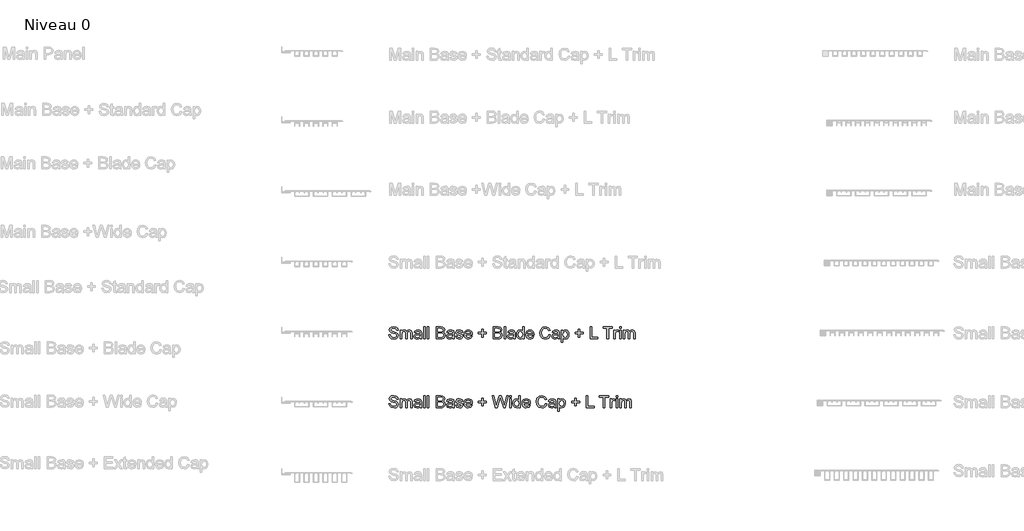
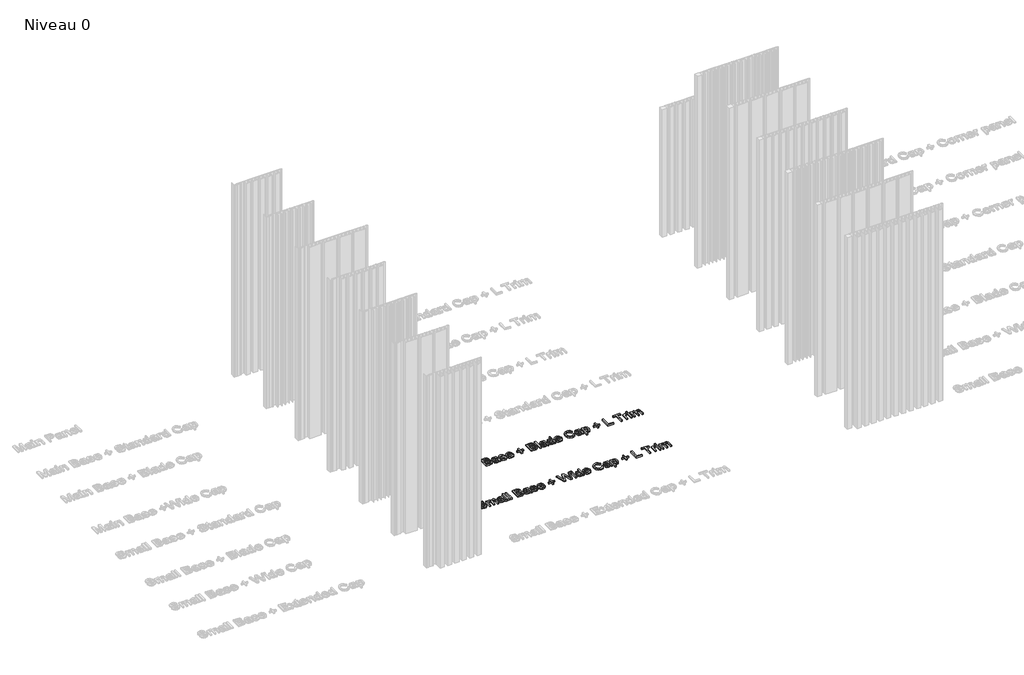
# One storey, part 9 of 25: 2 proxies.
"""IFC4 building model written with IfcOpenShell, lengths in millimetres."""

from ifc_helpers import new_model, si_unit, origin, origin_with_axes, place, context, project, spatial, polyline, outline, extrude, element, save

model = new_model("IFC4")

# Units and contexts
model_context = context("Model", 3, world=origin())
ifc_project = project(units=[si_unit("LENGTHUNIT", "METRE", prefix="MILLI")], contexts=[model_context])

# Site, building, storey
site = spatial("IfcSite", under=ifc_project)
building = spatial("IfcBuilding", under=site)
storey = spatial("IfcBuildingStorey", under=building, Name="Niveau 0", Elevation=0.0)

# Proxies
placement = place(None, origin())
element("IfcBuildingElementProxy", 1, Name="70mm Arial", ObjectType="70mm Arial", at=placement, inside=storey, context=model_context, shape_type="SweptSolid", body=[
    extrude(outline(polyline([(582.8802856, 2910.8444664), (591.6702128, 2910.8444664), (594.5029041, 2902.0459554), (601.4215382, 2896.4835796), (611.9625836, 2894.363353), (621.1473708, 2895.9685448), (627.0788548, 2900.3806762), (629.0274031, 2906.2778246), (627.5681379, 2911.7629451), (621.5937343, 2915.7544648), (608.7951196, 2919.1107748), (595.0179389, 2923.445651), (587.5413505, 2929.9865929), (585.0777674, 2938.7250166), (588.1250566, 2948.673772), (597.0265746, 2955.695413), (610.0569549, 2958.0903248), (623.9628943, 2955.5838221), (633.2335206, 2948.2188246), (636.7185893, 2937.2142478), (627.9286622, 2937.2142478), (622.9499925, 2946.2445245), (610.4003114, 2949.3003976), (597.8162946, 2946.2788602), (593.8676945, 2938.982534), (596.6660503, 2932.8879556), (611.0183532, 2927.9779572), (626.5724039, 2923.5658258), (635.0790619, 2916.4411778), (637.8173302, 2906.5010063), (634.6670341, 2895.9857126), (625.6024217, 2888.3116942), (612.3059401, 2885.5734259), (596.6059629, 2888.526292), (586.6743753, 2897.4192261), (582.8802856, 2910.8444664)])), origin_with_axes(), (0.0, 0.0, 1.0), 10.0),
    extrude(outline(polyline([(649.9034801, 2886.6721668), (649.9034801, 2938.3129887), (658.6934072, 2938.3129887), (658.6934072, 2929.8149146), (664.7364821, 2936.7764683), (673.3375631, 2939.4117296), (682.1446581, 2936.7249648), (686.9859852, 2929.1968729), (693.8445318, 2936.8580154), (702.5057003, 2939.4117296), (713.9995601, 2935.1626926), (718.0254154, 2922.0722249), (718.0254154, 2886.6721668), (709.2354882, 2886.6721668), (709.2354882, 2918.2953031), (708.4200165, 2925.6345489), (705.4671503, 2929.2483764), (700.4455611, 2930.6218025), (691.8015605, 2927.1023981), (688.3594113, 2915.8231361), (688.3594113, 2886.6721668), (679.5694841, 2886.6721668), (679.5694841, 2919.2738692), (677.5350967, 2927.7891111), (670.8653961, 2930.6218025), (664.3587899, 2928.7333416), (660.0324977, 2923.2053015), (658.6934072, 2912.7157595), (658.6934072, 2886.6721668), (649.9034801, 2886.6721668)])), origin_with_axes(), (0.0, 0.0, 1.0), 10.0),
    extrude(outline(polyline([(764.1725329, 2893.2646121), (755.648707, 2887.3073764), (746.2321542, 2885.5734259), (733.4678753, 2889.7452077), (729.0128243, 2900.4064279), (730.6952713, 2907.3593976), (735.1159866, 2912.4067386), (741.2706524, 2915.2909335), (748.8759995, 2916.6128561), (764.1210294, 2919.6343936), (764.1725329, 2921.5915258), (761.7518693, 2928.0809642), (752.0348796, 2930.6218025), (743.1419455, 2928.9307716), (738.9014923, 2922.9306162), (730.1115652, 2924.0293571), (733.9142387, 2932.6132703), (741.5710893, 2937.6434435), (753.1679561, 2939.4117296), (763.8205924, 2937.8494574), (769.8379156, 2933.9266091), (772.5332643, 2927.9607894), (772.96246, 2920.2696031), (772.96246, 2909.3336977), (773.4088235, 2894.0629161), (775.1599418, 2886.6721668), (766.3700146, 2886.6721668), (764.1725329, 2893.2646121)]), holes=[polyline([(764.1725329, 2910.8444664), (749.9919082, 2908.1491177), (742.4294807, 2906.7241881), (739.0044993, 2904.4065315), (737.8027514, 2901.0244697), (740.420845, 2896.2689818), (748.1034473, 2894.363353), (756.9963814, 2896.4664118), (762.7304354, 2901.5566723), (764.1210294, 2908.3551316), (764.1725329, 2910.8444664)])]), origin_with_axes(), (0.0, 0.0, 1.0), 10.0),
    extrude(outline(polyline([(785.0486098, 2886.6721668), (785.0486098, 2956.9915839), (793.8385369, 2956.9915839), (793.8385369, 2886.6721668), (785.0486098, 2886.6721668)])), origin_with_axes(), (0.0, 0.0, 1.0), 10.0),
    extrude(outline(polyline([(807.0234276, 2886.6721668), (807.0234276, 2956.9915839), (815.8133548, 2956.9915839), (815.8133548, 2886.6721668), (807.0234276, 2886.6721668)])), origin_with_axes(), (0.0, 0.0, 1.0), 10.0),
    extrude(outline(polyline([(857.5655087, 2886.6721668), (857.5655087, 2956.9915839), (884.3988214, 2956.9915839), (897.5407926, 2954.9228608), (905.3006501, 2948.5621811), (908.1075897, 2939.5662401), (905.7470136, 2931.3514351), (898.6137817, 2925.128098), (907.2749502, 2918.5699883), (910.3050715, 2907.6340829), (908.2363484, 2898.1831944), (903.1117522, 2891.4534064), (895.4634856, 2887.8824985), (884.1928075, 2886.6721668), (857.5655087, 2886.6721668)]), holes=[polyline([(866.3554358, 2895.4620939), (884.3816536, 2895.4620939), (890.9054276, 2895.8054505), (896.4248838, 2897.7196631), (900.0816309, 2901.6253436), (901.5151444, 2907.5482437), (899.8326974, 2914.3810387), (894.3819125, 2918.4583974), (883.5232623, 2919.6343936), (866.3554358, 2919.6343936), (866.3554358, 2895.4620939)]), polyline([(866.3554358, 2928.4243207), (882.4073536, 2928.4243207), (891.7809868, 2929.1797051), (897.4206178, 2932.4330082), (899.3176626, 2938.1584783), (897.5493765, 2943.8925323), (892.4848677, 2947.283178), (881.1884379, 2948.2016568), (866.3554358, 2948.2016568), (866.3554358, 2928.4243207)])]), origin_with_axes(), (0.0, 0.0, 1.0), 10.0),
    extrude(outline(polyline([(954.2547072, 2893.2646121), (945.7308814, 2887.3073764), (936.3143286, 2885.5734259), (923.5500496, 2889.7452077), (919.0949987, 2900.4064279), (920.7774457, 2907.3593976), (925.198161, 2912.4067386), (931.3528267, 2915.2909335), (938.9581739, 2916.6128561), (954.2032037, 2919.6343936), (954.2547072, 2921.5915258), (951.8340437, 2928.0809642), (942.1170539, 2930.6218025), (933.2241198, 2928.9307716), (928.9836667, 2922.9306162), (920.1937396, 2924.0293571), (923.9964131, 2932.6132703), (931.6532637, 2937.6434435), (943.2501305, 2939.4117296), (953.9027668, 2937.8494574), (959.9200899, 2933.9266091), (962.6154387, 2927.9607894), (963.0446343, 2920.2696031), (963.0446343, 2909.3336977), (963.4909978, 2894.0629161), (965.2421161, 2886.6721668), (956.452189, 2886.6721668), (954.2547072, 2893.2646121)]), holes=[polyline([(954.2547072, 2910.8444664), (940.0740826, 2908.1491177), (932.511655, 2906.7241881), (929.0866736, 2904.4065315), (927.8849258, 2901.0244697), (930.5030193, 2896.2689818), (938.1856217, 2894.363353), (947.0785558, 2896.4664118), (952.8126098, 2901.5566723), (954.2032037, 2908.3551316), (954.2547072, 2910.8444664)])]), origin_with_axes(), (0.0, 0.0, 1.0), 10.0),
    extrude(outline(polyline([(971.8345615, 2902.0545393), (980.6244886, 2903.1532802), (984.6932635, 2896.6295061), (994.0153933, 2894.363353), (1002.9769987, 2896.44066), (1005.8955291, 2901.3163227), (1002.9598308, 2905.2649228), (993.9123863, 2907.7714255), (980.6759921, 2912.071966), (974.8990185, 2917.0935552), (972.9333024, 2924.1838676), (974.5127424, 2930.7333933), (978.8218668, 2935.7378148), (984.4099944, 2938.3387405), (991.9724219, 2939.4117296), (1002.6679778, 2937.6863631), (1009.466437, 2933.0167143), (1012.4879745, 2925.128098), (1003.6980474, 2924.0293571), (1000.3932408, 2928.8792681), (992.659135, 2930.6218025), (984.2469, 2928.9565233), (981.7232295, 2925.0765945), (982.7704669, 2922.5185884), (986.0495218, 2920.578624), (993.6205332, 2918.7073309), (1006.5221548, 2914.5698848), (1012.5137262, 2909.8830681), (1014.6854563, 2902.2433854), (1012.1360341, 2893.8311504), (1004.7796204, 2887.7279881), (993.8952185, 2885.5734259), (978.5643495, 2889.7280399), (971.8345615, 2902.0545393)])), origin_with_axes(), (0.0, 0.0, 1.0), 10.0),
    extrude(outline(polyline([(1060.7295668, 2902.0545393), (1069.3478157, 2900.9557984), (1061.2875212, 2889.6078651), (1046.2742569, 2885.5734259), (1035.9606852, 2887.3138143), (1028.0248574, 2892.5349795), (1022.9646406, 2900.897857), (1021.2779016, 2912.0633821), (1022.9818084, 2923.6044534), (1028.0935287, 2932.2355782), (1035.9220576, 2937.6176918), (1045.77639, 2939.4117296), (1055.3238475, 2937.6219837), (1062.9528003, 2932.252746), (1067.9550758, 2923.6387891), (1069.6225009, 2912.1148856), (1069.5709974, 2909.7457255), (1030.0678288, 2909.7457255), (1035.1237537, 2898.3291209), (1046.4459352, 2894.363353), (1055.0641841, 2896.2003105), (1060.7295668, 2902.0545393)]), holes=[polyline([(1030.0678288, 2918.5356527), (1060.8325738, 2918.5356527), (1057.3131693, 2926.5015241), (1045.7420543, 2930.6218025), (1034.9177397, 2927.3341637), (1030.0678288, 2918.5356527)])]), origin_with_axes(), (0.0, 0.0, 1.0), 10.0),
    extrude(outline(polyline([(1123.4608046, 2897.6595757), (1123.4608046, 2916.3381709), (1104.7822095, 2916.3381709), (1104.7822095, 2925.128098), (1123.4608046, 2925.128098), (1123.4608046, 2943.8066932), (1132.2507318, 2943.8066932), (1132.2507318, 2925.128098), (1150.9293269, 2925.128098), (1150.9293269, 2916.3381709), (1132.2507318, 2916.3381709), (1132.2507318, 2897.6595757), (1123.4608046, 2897.6595757)])), origin_with_axes(), (0.0, 0.0, 1.0), 10.0),
    extrude(outline(polyline([(1191.5827399, 2886.6721668), (1191.5827399, 2956.9915839), (1218.4160527, 2956.9915839), (1231.5580238, 2954.9228608), (1239.3178814, 2948.5621811), (1242.124821, 2939.5662401), (1239.7642448, 2931.3514351), (1232.631013, 2925.128098), (1241.2921814, 2918.5699883), (1244.3223028, 2907.6340829), (1242.2535797, 2898.1831944), (1237.1289835, 2891.4534064), (1229.4807168, 2887.8824985), (1218.2100388, 2886.6721668), (1191.5827399, 2886.6721668)]), holes=[polyline([(1200.3726671, 2895.4620939), (1218.3988848, 2895.4620939), (1224.9226589, 2895.8054505), (1230.4421151, 2897.7196631), (1234.0988621, 2901.6253436), (1235.5323756, 2907.5482437), (1233.8499286, 2914.3810387), (1228.3991437, 2918.4583974), (1217.5404935, 2919.6343936), (1200.3726671, 2919.6343936), (1200.3726671, 2895.4620939)]), polyline([(1200.3726671, 2928.4243207), (1216.4245848, 2928.4243207), (1225.798218, 2929.1797051), (1231.437849, 2932.4330082), (1233.3348938, 2938.1584783), (1231.5666077, 2943.8925323), (1226.5020989, 2947.283178), (1215.2056691, 2948.2016568), (1200.3726671, 2948.2016568), (1200.3726671, 2928.4243207)])]), origin_with_axes(), (0.0, 0.0, 1.0), 10.0),
    extrude(outline(polyline([(1255.3097117, 2886.6721668), (1255.3097117, 2956.9915839), (1264.0996388, 2956.9915839), (1264.0996388, 2886.6721668), (1255.3097117, 2886.6721668)])), origin_with_axes(), (0.0, 0.0, 1.0), 10.0),
    extrude(outline(polyline([(1310.2467563, 2893.2646121), (1301.7229305, 2887.3073764), (1292.3063777, 2885.5734259), (1279.5420987, 2889.7452077), (1275.0870478, 2900.4064279), (1276.7694947, 2907.3593976), (1281.1902101, 2912.4067386), (1287.3448758, 2915.2909335), (1294.9502229, 2916.6128561), (1310.1952528, 2919.6343936), (1310.2467563, 2921.5915258), (1307.8260928, 2928.0809642), (1298.109103, 2930.6218025), (1289.2161689, 2928.9307716), (1284.9757158, 2922.9306162), (1276.1857886, 2924.0293571), (1279.9884622, 2932.6132703), (1287.6453128, 2937.6434435), (1299.2421796, 2939.4117296), (1309.8948159, 2937.8494574), (1315.912139, 2933.9266091), (1318.6074878, 2927.9607894), (1319.0366834, 2920.2696031), (1319.0366834, 2909.3336977), (1319.4830469, 2894.0629161), (1321.2341652, 2886.6721668), (1312.4442381, 2886.6721668), (1310.2467563, 2893.2646121)]), holes=[polyline([(1310.2467563, 2910.8444664), (1296.0661317, 2908.1491177), (1288.5037041, 2906.7241881), (1285.0787227, 2904.4065315), (1283.8769749, 2901.0244697), (1286.4950684, 2896.2689818), (1294.1776708, 2894.363353), (1303.0706049, 2896.4664118), (1308.8046589, 2901.5566723), (1310.1952528, 2908.3551316), (1310.2467563, 2910.8444664)])]), origin_with_axes(), (0.0, 0.0, 1.0), 10.0),
    extrude(outline(polyline([(1362.9863191, 2886.6721668), (1362.9863191, 2894.964227), (1357.1707179, 2887.9211262), (1349.1318832, 2885.5734259), (1338.2474812, 2888.9726555), (1330.556295, 2898.4578796), (1327.8266106, 2912.4410743), (1330.3416972, 2926.4328528), (1337.878373, 2936.0640035), (1349.0975475, 2939.4117296), (1357.2007616, 2937.0168178), (1362.9863191, 2930.7934807), (1362.9863191, 2956.9915839), (1371.7762463, 2956.9915839), (1371.7762463, 2886.6721668), (1362.9863191, 2886.6721668)]), holes=[polyline([(1336.6165377, 2912.4754099), (1340.5823056, 2898.8699075), (1349.938771, 2894.363353), (1359.1836456, 2898.6638936), (1362.9863191, 2911.8058647), (1359.1149743, 2926.0723285), (1349.5782467, 2930.6218025), (1340.3247882, 2926.2525906), (1336.6165377, 2912.4754099)])]), origin_with_axes(), (0.0, 0.0, 1.0), 10.0),
    extrude(outline(polyline([(1421.1165795, 2902.0545393), (1429.7348283, 2900.9557984), (1421.6745338, 2889.6078651), (1406.6612696, 2885.5734259), (1396.3476979, 2887.3138143), (1388.4118701, 2892.5349795), (1383.3516532, 2900.897857), (1381.6649143, 2912.0633821), (1383.3688211, 2923.6044534), (1388.4805414, 2932.2355782), (1396.3090703, 2937.6176918), (1406.1634026, 2939.4117296), (1415.7108601, 2937.6219837), (1423.339813, 2932.252746), (1428.3420884, 2923.6387891), (1430.0095136, 2912.1148856), (1429.9580101, 2909.7457255), (1390.4548414, 2909.7457255), (1395.5107663, 2898.3291209), (1406.8329479, 2894.363353), (1415.4511967, 2896.2003105), (1421.1165795, 2902.0545393)]), holes=[polyline([(1390.4548414, 2918.5356527), (1421.2195864, 2918.5356527), (1417.700182, 2926.5015241), (1406.129067, 2930.6218025), (1395.3047524, 2927.3341637), (1390.4548414, 2918.5356527)])]), origin_with_axes(), (0.0, 0.0, 1.0), 10.0),
    extrude(outline(polyline([(1516.810044, 2911.6685221), (1525.5999712, 2909.402369), (1521.5440722, 2899.1596145), (1515.1791005, 2891.6765882), (1506.8183691, 2887.0992165), (1496.7751906, 2885.5734259), (1478.4828715, 2890.1915712), (1467.75298, 2903.565308), (1464.0704812, 2922.364078), (1468.2336791, 2941.4718688), (1480.0708955, 2953.8584556), (1496.9640367, 2958.0903248), (1514.5696427, 2952.6137881), (1524.5012303, 2937.19708), (1515.7113032, 2935.1026052), (1508.5008161, 2945.9097519), (1496.6206802, 2949.3003976), (1482.8692512, 2945.5406437), (1475.1008097, 2935.4459617), (1472.8604084, 2922.3812458), (1475.5128375, 2907.2392229), (1483.7705621, 2897.5651527), (1495.8996314, 2894.363353), (1509.3506235, 2898.7239809), (1516.810044, 2911.6685221)])), origin_with_axes(), (0.0, 0.0, 1.0), 10.0),
    extrude(outline(polyline([(1569.5496069, 2893.2646121), (1561.025781, 2887.3073764), (1551.6092282, 2885.5734259), (1538.8449493, 2889.7452077), (1534.3898983, 2900.4064279), (1536.0723453, 2907.3593976), (1540.4930606, 2912.4067386), (1546.6477264, 2915.2909335), (1554.2530735, 2916.6128561), (1569.4981034, 2919.6343936), (1569.5496069, 2921.5915258), (1567.1289433, 2928.0809642), (1557.4119536, 2930.6218025), (1548.5190195, 2928.9307716), (1544.2785664, 2922.9306162), (1535.4886392, 2924.0293571), (1539.2913128, 2932.6132703), (1546.9481634, 2937.6434435), (1558.5450301, 2939.4117296), (1569.1976664, 2937.8494574), (1575.2149896, 2933.9266091), (1577.9103384, 2927.9607894), (1578.339534, 2920.2696031), (1578.339534, 2909.3336977), (1578.7858975, 2894.0629161), (1580.5370158, 2886.6721668), (1571.7470887, 2886.6721668), (1569.5496069, 2893.2646121)]), holes=[polyline([(1569.5496069, 2910.8444664), (1555.3689822, 2908.1491177), (1547.8065547, 2906.7241881), (1544.3815733, 2904.4065315), (1543.1798255, 2901.0244697), (1545.797919, 2896.2689818), (1553.4805213, 2894.363353), (1562.3734554, 2896.4664118), (1568.1075095, 2901.5566723), (1569.4981034, 2908.3551316), (1569.5496069, 2910.8444664)])]), origin_with_axes(), (0.0, 0.0, 1.0), 10.0),
    extrude(outline(polyline([(1590.4256838, 2866.8948307), (1590.4256838, 2938.3129887), (1599.215611, 2938.3129887), (1599.215611, 2929.6947398), (1605.2930215, 2936.9824822), (1613.4992426, 2939.4117296), (1624.6411619, 2936.0125), (1631.9203203, 2926.4328528), (1634.3753195, 2912.8874378), (1631.6027156, 2898.6467257), (1623.551005, 2888.9469038), (1612.4348373, 2885.5734259), (1604.7865706, 2887.8309951), (1599.215611, 2893.5392974), (1599.215611, 2866.8948307), (1590.4256838, 2866.8948307)]), holes=[polyline([(1599.215611, 2912.0805499), (1603.0182845, 2898.6896453), (1612.2459912, 2894.363353), (1621.662544, 2898.8441557), (1625.5853924, 2912.7329273), (1621.7569671, 2926.1581676), (1612.6065156, 2930.6218025), (1603.2758019, 2925.8748985), (1599.215611, 2912.0805499)])]), origin_with_axes(), (0.0, 0.0, 1.0), 10.0),
    extrude(outline(polyline([(1689.3123641, 2897.6595757), (1689.3123641, 2916.3381709), (1670.633769, 2916.3381709), (1670.633769, 2925.128098), (1689.3123641, 2925.128098), (1689.3123641, 2943.8066932), (1698.1022913, 2943.8066932), (1698.1022913, 2925.128098), (1716.7808864, 2925.128098), (1716.7808864, 2916.3381709), (1698.1022913, 2916.3381709), (1698.1022913, 2897.6595757), (1689.3123641, 2897.6595757)])), origin_with_axes(), (0.0, 0.0, 1.0), 10.0),
    extrude(outline(polyline([(1757.4342995, 2886.6721668), (1757.4342995, 2956.9915839), (1766.2242266, 2956.9915839), (1766.2242266, 2895.4620939), (1801.3839351, 2895.4620939), (1801.3839351, 2886.6721668), (1757.4342995, 2886.6721668)])), origin_with_axes(), (0.0, 0.0, 1.0), 10.0),
    extrude(outline(polyline([(1856.3209798, 2886.6721668), (1856.3209798, 2948.2016568), (1833.247421, 2948.2016568), (1833.247421, 2956.9915839), (1888.1844656, 2956.9915839), (1888.1844656, 2948.2016568), (1865.1109069, 2948.2016568), (1865.1109069, 2886.6721668), (1856.3209798, 2886.6721668)])), origin_with_axes(), (0.0, 0.0, 1.0), 10.0),
    extrude(outline(polyline([(1896.9743928, 2886.6721668), (1896.9743928, 2938.3129887), (1904.665579, 2938.3129887), (1904.665579, 2930.673306), (1910.1249478, 2937.7121148), (1915.6186523, 2939.4117296), (1924.4429151, 2936.699213), (1921.5072168, 2928.8191807), (1915.3267992, 2930.6218025), (1910.3567135, 2928.887852), (1907.1892495, 2924.0808606), (1905.7643199, 2913.8145004), (1905.7643199, 2886.6721668), (1896.9743928, 2886.6721668)])), origin_with_axes(), (0.0, 0.0, 1.0), 10.0),
    extrude(outline(polyline([(1929.9366195, 2886.6721668), (1929.9366195, 2938.3129887), (1938.7265467, 2938.3129887), (1938.7265467, 2886.6721668), (1929.9366195, 2886.6721668)])), origin_with_axes(), (0.0, 0.0, 1.0), 10.0),
    extrude(outline(polyline([(1929.9366195, 2948.2016568), (1929.9366195, 2956.9915839), (1938.7265467, 2956.9915839), (1938.7265467, 2948.2016568), (1929.9366195, 2948.2016568)])), origin_with_axes(), (0.0, 0.0, 1.0), 10.0),
    extrude(outline(polyline([(1951.9114374, 2886.6721668), (1951.9114374, 2938.3129887), (1960.7013645, 2938.3129887), (1960.7013645, 2929.8149146), (1966.7444394, 2936.7764683), (1975.3455205, 2939.4117296), (1984.1526154, 2936.7249648), (1988.9939425, 2929.1968729), (1995.8524892, 2936.8580154), (2004.5136576, 2939.4117296), (2016.0075174, 2935.1626926), (2020.0333727, 2922.0722249), (2020.0333727, 2886.6721668), (2011.2434456, 2886.6721668), (2011.2434456, 2918.2953031), (2010.4279738, 2925.6345489), (2007.4751077, 2929.2483764), (2002.4535184, 2930.6218025), (1993.8095178, 2927.1023981), (1990.3673686, 2915.8231361), (1990.3673686, 2886.6721668), (1981.5774415, 2886.6721668), (1981.5774415, 2919.2738692), (1979.543054, 2927.7891111), (1972.8733535, 2930.6218025), (1966.3667472, 2928.7333416), (1962.040455, 2923.2053015), (1960.7013645, 2912.7157595), (1960.7013645, 2886.6721668), (1951.9114374, 2886.6721668)])), origin_with_axes(), (0.0, 0.0, 1.0), 10.0),
])
element("IfcBuildingElementProxy", 2, Name="70mm Arial", ObjectType="70mm Arial", at=placement, inside=storey, context=model_context, shape_type="SweptSolid", body=[
    extrude(outline(polyline([(582.8802856, 2508.3706743), (591.6702128, 2508.3706743), (594.5029041, 2499.5721633), (601.4215382, 2494.0097875), (611.9625836, 2491.8895609), (621.1473708, 2493.4947527), (627.0788548, 2497.9068841), (629.0274031, 2503.8040325), (627.5681379, 2509.289153), (621.5937343, 2513.2806727), (608.7951196, 2516.6369827), (595.0179389, 2520.9718589), (587.5413505, 2527.5128008), (585.0777674, 2536.2512245), (588.1250566, 2546.1999799), (597.0265746, 2553.2216209), (610.0569549, 2555.6165327), (623.9628943, 2553.11003), (633.2335206, 2545.7450325), (636.7185893, 2534.7404557), (627.9286622, 2534.7404557), (622.9499925, 2543.7707324), (610.4003114, 2546.8266055), (597.8162946, 2543.8050681), (593.8676945, 2536.5087418), (596.6660503, 2530.4141635), (611.0183532, 2525.5041651), (626.5724039, 2521.0920337), (635.0790619, 2513.9673857), (637.8173302, 2504.0272142), (634.6670341, 2493.5119205), (625.6024217, 2485.8379021), (612.3059401, 2483.0996338), (596.6059629, 2486.0524999), (586.6743753, 2494.945434), (582.8802856, 2508.3706743)])), origin_with_axes(), (0.0, 0.0, 1.0), 10.0),
    extrude(outline(polyline([(649.9034801, 2484.1983747), (649.9034801, 2535.8391966), (658.6934072, 2535.8391966), (658.6934072, 2527.3411225), (664.7364821, 2534.3026761), (673.3375631, 2536.9379375), (682.1446581, 2534.2511727), (686.9859852, 2526.7230808), (693.8445318, 2534.3842233), (702.5057003, 2536.9379375), (713.9995601, 2532.6889005), (718.0254154, 2519.5984328), (718.0254154, 2484.1983747), (709.2354882, 2484.1983747), (709.2354882, 2515.821511), (708.4200165, 2523.1607568), (705.4671503, 2526.7745843), (700.4455611, 2528.1480104), (691.8015605, 2524.6286059), (688.3594113, 2513.349344), (688.3594113, 2484.1983747), (679.5694841, 2484.1983747), (679.5694841, 2516.8000771), (677.5350967, 2525.315319), (670.8653961, 2528.1480104), (664.3587899, 2526.2595495), (660.0324977, 2520.7315093), (658.6934072, 2510.2419674), (658.6934072, 2484.1983747), (649.9034801, 2484.1983747)])), origin_with_axes(), (0.0, 0.0, 1.0), 10.0),
    extrude(outline(polyline([(764.1725329, 2490.79082), (755.648707, 2484.8335843), (746.2321542, 2483.0996338), (733.4678753, 2487.2714156), (729.0128243, 2497.9326358), (730.6952713, 2504.8856055), (735.1159866, 2509.9329465), (741.2706524, 2512.8171414), (748.8759995, 2514.139064), (764.1210294, 2517.1606014), (764.1725329, 2519.1177337), (761.7518693, 2525.6071721), (752.0348796, 2528.1480104), (743.1419455, 2526.4569795), (738.9014923, 2520.4568241), (730.1115652, 2521.555565), (733.9142387, 2530.1394782), (741.5710893, 2535.1696514), (753.1679561, 2536.9379375), (763.8205924, 2535.3756653), (769.8379156, 2531.452817), (772.5332643, 2525.4869973), (772.96246, 2517.795811), (772.96246, 2506.8599056), (773.4088235, 2491.589124), (775.1599418, 2484.1983747), (766.3700146, 2484.1983747), (764.1725329, 2490.79082)]), holes=[polyline([(764.1725329, 2508.3706743), (749.9919082, 2505.6753256), (742.4294807, 2504.250396), (739.0044993, 2501.9327394), (737.8027514, 2498.5506776), (740.420845, 2493.7951897), (748.1034473, 2491.8895609), (756.9963814, 2493.9926197), (762.7304354, 2499.0828802), (764.1210294, 2505.8813395), (764.1725329, 2508.3706743)])]), origin_with_axes(), (0.0, 0.0, 1.0), 10.0),
    extrude(outline(polyline([(785.0486098, 2484.1983747), (785.0486098, 2554.5177918), (793.8385369, 2554.5177918), (793.8385369, 2484.1983747), (785.0486098, 2484.1983747)])), origin_with_axes(), (0.0, 0.0, 1.0), 10.0),
    extrude(outline(polyline([(807.0234276, 2484.1983747), (807.0234276, 2554.5177918), (815.8133548, 2554.5177918), (815.8133548, 2484.1983747), (807.0234276, 2484.1983747)])), origin_with_axes(), (0.0, 0.0, 1.0), 10.0),
    extrude(outline(polyline([(857.5655087, 2484.1983747), (857.5655087, 2554.5177918), (884.3988214, 2554.5177918), (897.5407926, 2552.4490687), (905.3006501, 2546.088389), (908.1075897, 2537.0924479), (905.7470136, 2528.877643), (898.6137817, 2522.6543059), (907.2749502, 2516.0961962), (910.3050715, 2505.1602908), (908.2363484, 2495.7094023), (903.1117522, 2488.9796143), (895.4634856, 2485.4087064), (884.1928075, 2484.1983747), (857.5655087, 2484.1983747)]), holes=[polyline([(866.3554358, 2492.9883018), (884.3816536, 2492.9883018), (890.9054276, 2493.3316583), (896.4248838, 2495.245871), (900.0816309, 2499.1515515), (901.5151444, 2505.0744516), (899.8326974, 2511.9072466), (894.3819125, 2515.9846053), (883.5232623, 2517.1606014), (866.3554358, 2517.1606014), (866.3554358, 2492.9883018)]), polyline([(866.3554358, 2525.9505286), (882.4073536, 2525.9505286), (891.7809868, 2526.7059129), (897.4206178, 2529.9592161), (899.3176626, 2535.6846862), (897.5493765, 2541.4187402), (892.4848677, 2544.8093859), (881.1884379, 2545.7278646), (866.3554358, 2545.7278646), (866.3554358, 2525.9505286)])]), origin_with_axes(), (0.0, 0.0, 1.0), 10.0),
    extrude(outline(polyline([(954.2547072, 2490.79082), (945.7308814, 2484.8335843), (936.3143286, 2483.0996338), (923.5500496, 2487.2714156), (919.0949987, 2497.9326358), (920.7774457, 2504.8856055), (925.198161, 2509.9329465), (931.3528267, 2512.8171414), (938.9581739, 2514.139064), (954.2032037, 2517.1606014), (954.2547072, 2519.1177337), (951.8340437, 2525.6071721), (942.1170539, 2528.1480104), (933.2241198, 2526.4569795), (928.9836667, 2520.4568241), (920.1937396, 2521.555565), (923.9964131, 2530.1394782), (931.6532637, 2535.1696514), (943.2501305, 2536.9379375), (953.9027668, 2535.3756653), (959.9200899, 2531.452817), (962.6154387, 2525.4869973), (963.0446343, 2517.795811), (963.0446343, 2506.8599056), (963.4909978, 2491.589124), (965.2421161, 2484.1983747), (956.452189, 2484.1983747), (954.2547072, 2490.79082)]), holes=[polyline([(954.2547072, 2508.3706743), (940.0740826, 2505.6753256), (932.511655, 2504.250396), (929.0866736, 2501.9327394), (927.8849258, 2498.5506776), (930.5030193, 2493.7951897), (938.1856217, 2491.8895609), (947.0785558, 2493.9926197), (952.8126098, 2499.0828802), (954.2032037, 2505.8813395), (954.2547072, 2508.3706743)])]), origin_with_axes(), (0.0, 0.0, 1.0), 10.0),
    extrude(outline(polyline([(971.8345615, 2499.5807472), (980.6244886, 2500.6794881), (984.6932635, 2494.155714), (994.0153933, 2491.8895609), (1002.9769987, 2493.9668679), (1005.8955291, 2498.8425306), (1002.9598308, 2502.7911307), (993.9123863, 2505.2976334), (980.6759921, 2509.5981739), (974.8990185, 2514.6197631), (972.9333024, 2521.7100755), (974.5127424, 2528.2596012), (978.8218668, 2533.2640226), (984.4099944, 2535.8649484), (991.9724219, 2536.9379375), (1002.6679778, 2535.212571), (1009.466437, 2530.5429222), (1012.4879745, 2522.6543059), (1003.6980474, 2521.555565), (1000.3932408, 2526.405476), (992.659135, 2528.1480104), (984.2469, 2526.4827312), (981.7232295, 2522.6028024), (982.7704669, 2520.0447963), (986.0495218, 2518.1048319), (993.6205332, 2516.2335388), (1006.5221548, 2512.0960926), (1012.5137262, 2507.409276), (1014.6854563, 2499.7695933), (1012.1360341, 2491.3573583), (1004.7796204, 2485.254196), (993.8952185, 2483.0996338), (978.5643495, 2487.2542478), (971.8345615, 2499.5807472)])), origin_with_axes(), (0.0, 0.0, 1.0), 10.0),
    extrude(outline(polyline([(1060.7295668, 2499.5807472), (1069.3478157, 2498.4820063), (1061.2875212, 2487.134073), (1046.2742569, 2483.0996338), (1035.9606852, 2484.8400222), (1028.0248574, 2490.0611874), (1022.9646406, 2498.4240649), (1021.2779016, 2509.58959), (1022.9818084, 2521.1306613), (1028.0935287, 2529.7617861), (1035.9220576, 2535.1438996), (1045.77639, 2536.9379375), (1055.3238475, 2535.1481916), (1062.9528003, 2529.7789539), (1067.9550758, 2521.164997), (1069.6225009, 2509.6410935), (1069.5709974, 2507.2719334), (1030.0678288, 2507.2719334), (1035.1237537, 2495.8553288), (1046.4459352, 2491.8895609), (1055.0641841, 2493.7265184), (1060.7295668, 2499.5807472)]), holes=[polyline([(1030.0678288, 2516.0618606), (1060.8325738, 2516.0618606), (1057.3131693, 2524.027732), (1045.7420543, 2528.1480104), (1034.9177397, 2524.8603716), (1030.0678288, 2516.0618606)])]), origin_with_axes(), (0.0, 0.0, 1.0), 10.0),
    extrude(outline(polyline([(1123.4608046, 2495.1857836), (1123.4608046, 2513.8643788), (1104.7822095, 2513.8643788), (1104.7822095, 2522.6543059), (1123.4608046, 2522.6543059), (1123.4608046, 2541.3329011), (1132.2507318, 2541.3329011), (1132.2507318, 2522.6543059), (1150.9293269, 2522.6543059), (1150.9293269, 2513.8643788), (1132.2507318, 2513.8643788), (1132.2507318, 2495.1857836), (1123.4608046, 2495.1857836)])), origin_with_axes(), (0.0, 0.0, 1.0), 10.0),
    extrude(outline(polyline([(1204.1667567, 2484.1983747), (1184.9902946, 2554.5177918), (1194.0549069, 2554.5177918), (1205.1796585, 2508.302003), (1208.6132238, 2494.0355392), (1212.2871386, 2506.6538917), (1226.2274137, 2554.5177918), (1239.2921296, 2554.5177918), (1249.4211472, 2519.8216145), (1256.957823, 2494.0355392), (1260.2883814, 2507.8899752), (1271.5161399, 2554.5177918), (1280.5807522, 2554.5177918), (1261.3871223, 2484.1983747), (1251.9963212, 2484.1983747), (1235.1375156, 2538.4487062), (1232.7855234, 2546.0197177), (1230.1416781, 2536.9036019), (1214.7764735, 2484.1983747), (1204.1667567, 2484.1983747)])), origin_with_axes(), (0.0, 0.0, 1.0), 10.0),
    extrude(outline(polyline([(1288.2719385, 2545.7278646), (1288.2719385, 2554.5177918), (1297.0618656, 2554.5177918), (1297.0618656, 2545.7278646), (1288.2719385, 2545.7278646)])), origin_with_axes(), (0.0, 0.0, 1.0), 10.0),
    extrude(outline(polyline([(1288.2719385, 2484.1983747), (1288.2719385, 2535.8391966), (1297.0618656, 2535.8391966), (1297.0618656, 2484.1983747), (1288.2719385, 2484.1983747)])), origin_with_axes(), (0.0, 0.0, 1.0), 10.0),
    extrude(outline(polyline([(1342.1102422, 2484.1983747), (1342.1102422, 2492.4904349), (1336.294641, 2485.4473341), (1328.2558062, 2483.0996338), (1317.3714043, 2486.4988634), (1309.680218, 2495.9840875), (1306.9505336, 2509.9672822), (1309.4656202, 2523.9590607), (1317.002296, 2533.5902114), (1328.2214706, 2536.9379375), (1336.3246847, 2534.5430257), (1342.1102422, 2528.3196886), (1342.1102422, 2554.5177918), (1350.9001693, 2554.5177918), (1350.9001693, 2484.1983747), (1342.1102422, 2484.1983747)]), holes=[polyline([(1315.7404608, 2510.0016178), (1319.7062287, 2496.3961154), (1329.0626941, 2491.8895609), (1338.3075686, 2496.1901014), (1342.1102422, 2509.3320726), (1338.2388973, 2523.5985364), (1328.7021697, 2528.1480104), (1319.4487113, 2523.7787985), (1315.7404608, 2510.0016178)])]), origin_with_axes(), (0.0, 0.0, 1.0), 10.0),
    extrude(outline(polyline([(1400.2405025, 2499.5807472), (1408.8587514, 2498.4820063), (1400.7984569, 2487.134073), (1385.7851926, 2483.0996338), (1375.4716209, 2484.8400222), (1367.5357931, 2490.0611874), (1362.4755763, 2498.4240649), (1360.7888373, 2509.58959), (1362.4927441, 2521.1306613), (1367.6044644, 2529.7617861), (1375.4329933, 2535.1438996), (1385.2873257, 2536.9379375), (1394.8347832, 2535.1481916), (1402.463736, 2529.7789539), (1407.4660115, 2521.164997), (1409.1334366, 2509.6410935), (1409.0819331, 2507.2719334), (1369.5787645, 2507.2719334), (1374.6346894, 2495.8553288), (1385.9568709, 2491.8895609), (1394.5751198, 2493.7265184), (1400.2405025, 2499.5807472)]), holes=[polyline([(1369.5787645, 2516.0618606), (1400.3435095, 2516.0618606), (1396.824105, 2524.027732), (1385.25299, 2528.1480104), (1374.4286755, 2524.8603716), (1369.5787645, 2516.0618606)])]), origin_with_axes(), (0.0, 0.0, 1.0), 10.0),
    extrude(outline(polyline([(1495.9339671, 2509.19473), (1504.7238942, 2506.9285769), (1500.6679952, 2496.6858224), (1494.3030236, 2489.2027961), (1485.9422921, 2484.6254244), (1475.8991136, 2483.0996338), (1457.6067946, 2487.7177791), (1446.876903, 2501.0915159), (1443.1944043, 2519.8902859), (1447.3576022, 2538.9980767), (1459.1948185, 2551.3846635), (1476.0879597, 2555.6165327), (1493.6935657, 2550.139996), (1503.6251533, 2534.7232879), (1494.8352262, 2532.6288131), (1487.6247391, 2543.4359598), (1475.7446032, 2546.8266055), (1461.9931742, 2543.0668515), (1454.2247328, 2532.9721696), (1451.9843314, 2519.9074537), (1454.6367606, 2504.7654308), (1462.8944851, 2495.0913606), (1475.0235545, 2491.8895609), (1488.4745465, 2496.2501888), (1495.9339671, 2509.19473)])), origin_with_axes(), (0.0, 0.0, 1.0), 10.0),
    extrude(outline(polyline([(1548.6735299, 2490.79082), (1540.1497041, 2484.8335843), (1530.7331513, 2483.0996338), (1517.9688723, 2487.2714156), (1513.5138214, 2497.9326358), (1515.1962684, 2504.8856055), (1519.6169837, 2509.9329465), (1525.7716495, 2512.8171414), (1533.3769966, 2514.139064), (1548.6220264, 2517.1606014), (1548.6735299, 2519.1177337), (1546.2528664, 2525.6071721), (1536.5358766, 2528.1480104), (1527.6429425, 2526.4569795), (1523.4024894, 2520.4568241), (1514.6125623, 2521.555565), (1518.4152358, 2530.1394782), (1526.0720864, 2535.1696514), (1537.6689532, 2536.9379375), (1548.3215895, 2535.3756653), (1554.3389127, 2531.452817), (1557.0342614, 2525.4869973), (1557.4634571, 2517.795811), (1557.4634571, 2506.8599056), (1557.9098206, 2491.589124), (1559.6609388, 2484.1983747), (1550.8710117, 2484.1983747), (1548.6735299, 2490.79082)]), holes=[polyline([(1548.6735299, 2508.3706743), (1534.4929053, 2505.6753256), (1526.9304777, 2504.250396), (1523.5054964, 2501.9327394), (1522.3037485, 2498.5506776), (1524.921842, 2493.7951897), (1532.6044444, 2491.8895609), (1541.4973785, 2493.9926197), (1547.2314325, 2499.0828802), (1548.6220264, 2505.8813395), (1548.6735299, 2508.3706743)])]), origin_with_axes(), (0.0, 0.0, 1.0), 10.0),
    extrude(outline(polyline([(1569.5496069, 2464.4210386), (1569.5496069, 2535.8391966), (1578.339534, 2535.8391966), (1578.339534, 2527.2209477), (1584.4169446, 2534.5086901), (1592.6231656, 2536.9379375), (1603.765085, 2533.5387079), (1611.0442434, 2523.9590607), (1613.4992426, 2510.4136457), (1610.7266386, 2496.1729336), (1602.674928, 2486.4731117), (1591.5587604, 2483.0996338), (1583.9104937, 2485.357203), (1578.339534, 2491.0655053), (1578.339534, 2464.4210386), (1569.5496069, 2464.4210386)]), holes=[polyline([(1578.339534, 2509.6067578), (1582.1422076, 2496.2158532), (1591.3699143, 2491.8895609), (1600.7864671, 2496.3703636), (1604.7093154, 2510.2591352), (1600.8808901, 2523.6843755), (1591.7304386, 2528.1480104), (1582.399725, 2523.4011064), (1578.339534, 2509.6067578)])]), origin_with_axes(), (0.0, 0.0, 1.0), 10.0),
    extrude(outline(polyline([(1668.4362872, 2495.1857836), (1668.4362872, 2513.8643788), (1649.757692, 2513.8643788), (1649.757692, 2522.6543059), (1668.4362872, 2522.6543059), (1668.4362872, 2541.3329011), (1677.2262143, 2541.3329011), (1677.2262143, 2522.6543059), (1695.9048095, 2522.6543059), (1695.9048095, 2513.8643788), (1677.2262143, 2513.8643788), (1677.2262143, 2495.1857836), (1668.4362872, 2495.1857836)])), origin_with_axes(), (0.0, 0.0, 1.0), 10.0),
    extrude(outline(polyline([(1736.5582225, 2484.1983747), (1736.5582225, 2554.5177918), (1745.3481496, 2554.5177918), (1745.3481496, 2492.9883018), (1780.5078582, 2492.9883018), (1780.5078582, 2484.1983747), (1736.5582225, 2484.1983747)])), origin_with_axes(), (0.0, 0.0, 1.0), 10.0),
    extrude(outline(polyline([(1835.4449028, 2484.1983747), (1835.4449028, 2545.7278646), (1812.3713441, 2545.7278646), (1812.3713441, 2554.5177918), (1867.3083887, 2554.5177918), (1867.3083887, 2545.7278646), (1844.2348299, 2545.7278646), (1844.2348299, 2484.1983747), (1835.4449028, 2484.1983747)])), origin_with_axes(), (0.0, 0.0, 1.0), 10.0),
    extrude(outline(polyline([(1876.0983158, 2484.1983747), (1876.0983158, 2535.8391966), (1883.7895021, 2535.8391966), (1883.7895021, 2528.1995138), (1889.2488709, 2535.2383227), (1894.7425753, 2536.9379375), (1903.5668381, 2534.2254209), (1900.6311398, 2526.3453886), (1894.4507223, 2528.1480104), (1889.4806365, 2526.4140599), (1886.3131726, 2521.6070685), (1884.888243, 2511.3407083), (1884.888243, 2484.1983747), (1876.0983158, 2484.1983747)])), origin_with_axes(), (0.0, 0.0, 1.0), 10.0),
    extrude(outline(polyline([(1909.0605426, 2484.1983747), (1909.0605426, 2535.8391966), (1917.8504697, 2535.8391966), (1917.8504697, 2484.1983747), (1909.0605426, 2484.1983747)])), origin_with_axes(), (0.0, 0.0, 1.0), 10.0),
    extrude(outline(polyline([(1909.0605426, 2545.7278646), (1909.0605426, 2554.5177918), (1917.8504697, 2554.5177918), (1917.8504697, 2545.7278646), (1909.0605426, 2545.7278646)])), origin_with_axes(), (0.0, 0.0, 1.0), 10.0),
    extrude(outline(polyline([(1931.0353604, 2484.1983747), (1931.0353604, 2535.8391966), (1939.8252876, 2535.8391966), (1939.8252876, 2527.3411225), (1945.8683625, 2534.3026761), (1954.4694435, 2536.9379375), (1963.2765385, 2534.2511727), (1968.1178655, 2526.7230808), (1974.9764122, 2534.3842233), (1983.6375806, 2536.9379375), (1995.1314405, 2532.6889005), (1999.1572958, 2519.5984328), (1999.1572958, 2484.1983747), (1990.3673686, 2484.1983747), (1990.3673686, 2515.821511), (1989.5518969, 2523.1607568), (1986.5990307, 2526.7745843), (1981.5774415, 2528.1480104), (1972.9334409, 2524.6286059), (1969.4912917, 2513.349344), (1969.4912917, 2484.1983747), (1960.7013645, 2484.1983747), (1960.7013645, 2516.8000771), (1958.6669771, 2525.315319), (1951.9972765, 2528.1480104), (1945.4906703, 2526.2595495), (1941.164378, 2520.7315093), (1939.8252876, 2510.2419674), (1939.8252876, 2484.1983747), (1931.0353604, 2484.1983747)])), origin_with_axes(), (0.0, 0.0, 1.0), 10.0),
])

save(model, "model.ifc")
